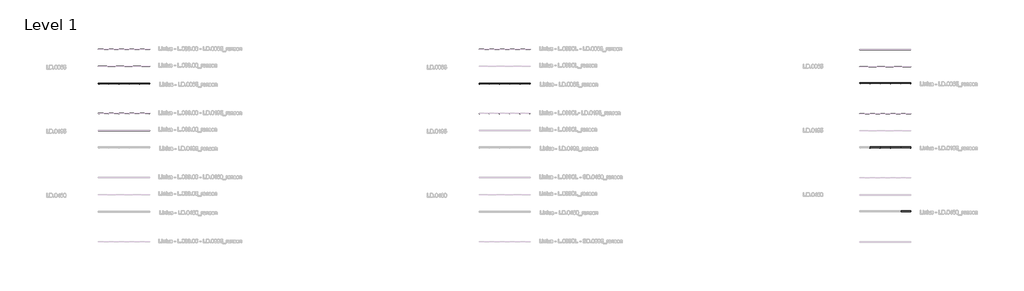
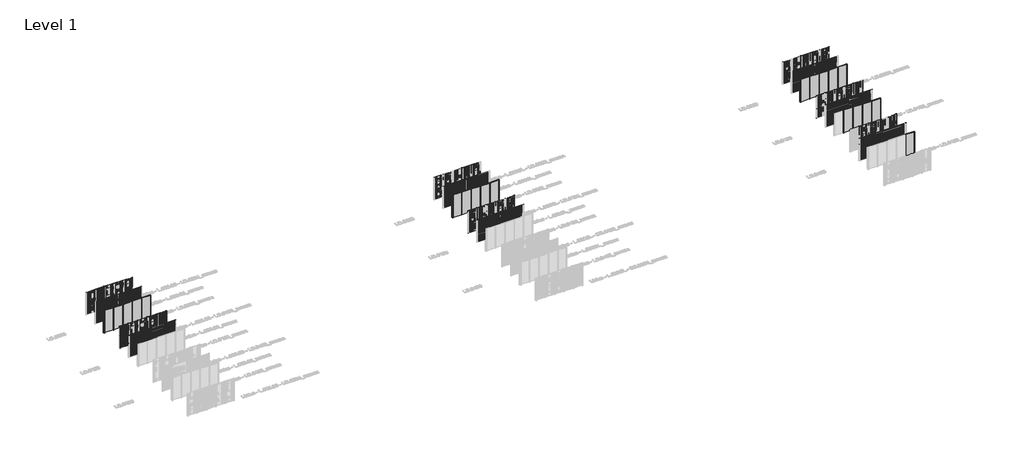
# One storey, part 9 of 507: 65 members, 61 plates.
"""IFC4 building model written with IfcOpenShell, lengths in millimetres."""

from ifc_helpers import new_model, si_unit, origin, origin_with_axes, place, context, project, spatial, polyline, outline, extrude, transform, mapped, element, save
from components import rectangular_mullion_42be434b, rectangular_mullion_e1f482b2, rectangular_mullion_21e3ddae, rectangular_mullion_ffdfeaf4, rectangular_mullion_e0a14876, rectangular_mullion_146f339b, rectangular_mullion_aa1047c5, rectangular_mullion_35b0a916, empty_system_panel_empty_aabbdda4

model = new_model("IFC4")

# Units and contexts
model_context = context("Model", 3, world=origin())
ifc_project = project(units=[si_unit("LENGTHUNIT", "METRE", prefix="MILLI")], contexts=[model_context])

# Site, building, storey
site = spatial("IfcSite", under=ifc_project)
building = spatial("IfcBuilding", under=site)
storey = spatial("IfcBuildingStorey", under=building, Name="Level 1", Elevation=0.0)

# Members
placement = place(None, origin())
rectangular_mullion_shape = rectangular_mullion_42be434b(model_context)
element("IfcMember", 1, ObjectType="Rectangular Mullion : LD.0065_renson", at=placement, inside=storey, context=model_context, shape_type="MappedRepresentation", body=[
    mapped(rectangular_mullion_shape, transform((136366.6208097, 69931.0540136, 0.0), x_axis=(-1.0, 0.0, 0.0), y_axis=(0.0, 1.0, 0.0), z_axis=(0.0, 0.0, -1.0))),
])
element("IfcMember", 2, ObjectType="Rectangular Mullion : LD.0065_renson", at=placement, inside=storey, context=model_context, shape_type="MappedRepresentation", body=[
    mapped(rectangular_mullion_shape, transform((135166.6208099, 69931.0540136, 0.0), x_axis=(-1.0, 0.0, 0.0), y_axis=(0.0, 1.0, 0.0), z_axis=(0.0, 0.0, -1.0))),
])
element("IfcMember", 3, ObjectType="Rectangular Mullion : LD.0065_renson", at=placement, inside=storey, context=model_context, shape_type="MappedRepresentation", body=[
    mapped(rectangular_mullion_shape, transform((137566.6208096, 69931.0540136, 0.0), x_axis=(-1.0, 0.0, 0.0), y_axis=(0.0, 1.0, 0.0), z_axis=(0.0, 0.0, -1.0))),
])
element("IfcMember", 4, ObjectType="Rectangular Mullion : LD.0065_renson", at=placement, inside=storey, context=model_context, shape_type="MappedRepresentation", body=[
    mapped(rectangular_mullion_shape, transform((138766.6208095, 69931.0540136, 0.0), x_axis=(-1.0, 0.0, 0.0), y_axis=(0.0, 1.0, 0.0), z_axis=(0.0, 0.0, -1.0))),
])
element("IfcMember", 5, ObjectType="Rectangular Mullion : LD.0065_renson", at=placement, inside=storey, context=model_context, shape_type="MappedRepresentation", body=[
    mapped(rectangular_mullion_shape, transform((138766.6208095, 74024.0540136, 0.0), x_axis=(-1.0, 0.0, 0.0), y_axis=(0.0, 1.0, 0.0), z_axis=(0.0, 0.0, -1.0))),
])
element("IfcMember", 6, ObjectType="Rectangular Mullion : LD.0065_renson", at=placement, inside=storey, context=model_context, shape_type="MappedRepresentation", body=[
    mapped(rectangular_mullion_shape, transform((137566.6208096, 74024.0540136, 0.0), x_axis=(-1.0, 0.0, 0.0), y_axis=(0.0, 1.0, 0.0), z_axis=(0.0, 0.0, -1.0))),
])
element("IfcMember", 7, ObjectType="Rectangular Mullion : LD.0065_renson", at=placement, inside=storey, context=model_context, shape_type="MappedRepresentation", body=[
    mapped(rectangular_mullion_shape, transform((136366.6208097, 74024.0540136, 0.0), x_axis=(-1.0, 0.0, 0.0), y_axis=(0.0, 1.0, 0.0), z_axis=(0.0, 0.0, -1.0))),
])
element("IfcMember", 8, ObjectType="Rectangular Mullion : LD.0065_renson", at=placement, inside=storey, context=model_context, shape_type="MappedRepresentation", body=[
    mapped(rectangular_mullion_shape, transform((135166.6208099, 74024.0540136, 0.0), x_axis=(-1.0, 0.0, 0.0), y_axis=(0.0, 1.0, 0.0), z_axis=(0.0, 0.0, -1.0))),
])
element("IfcMember", 9, ObjectType="Rectangular Mullion : LD.0065_renson", at=placement, inside=storey, context=model_context, shape_type="MappedRepresentation", body=[
    mapped(rectangular_mullion_shape, transform((183266.6208097, 74025.0540136, 0.0), x_axis=(-1.0, 0.0, 0.0), y_axis=(0.0, 1.0, 0.0), z_axis=(0.0, 0.0, -1.0))),
])
element("IfcMember", 10, ObjectType="Rectangular Mullion : LD.0065_renson", at=placement, inside=storey, context=model_context, shape_type="MappedRepresentation", body=[
    mapped(rectangular_mullion_shape, transform((182066.6208097, 74025.0540136, 0.0), x_axis=(-1.0, 0.0, 0.0), y_axis=(0.0, 1.0, 0.0), z_axis=(0.0, 0.0, -1.0))),
])
element("IfcMember", 11, ObjectType="Rectangular Mullion : LD.0065_renson", at=placement, inside=storey, context=model_context, shape_type="MappedRepresentation", body=[
    mapped(rectangular_mullion_shape, transform((180866.6208097, 74025.0540136, 0.0), x_axis=(-1.0, 0.0, 0.0), y_axis=(0.0, 1.0, 0.0), z_axis=(0.0, 0.0, -1.0))),
])
element("IfcMember", 12, ObjectType="Rectangular Mullion : LD.0065_renson", at=placement, inside=storey, context=model_context, shape_type="MappedRepresentation", body=[
    mapped(rectangular_mullion_shape, transform((179666.6208097, 74025.0540136, 0.0), x_axis=(-1.0, 0.0, 0.0), y_axis=(0.0, 1.0, 0.0), z_axis=(0.0, 0.0, -1.0))),
])
element("IfcMember", 13, ObjectType="Rectangular Mullion : LD.0065_renson", at=placement, inside=storey, context=model_context, shape_type="MappedRepresentation", body=[
    mapped(rectangular_mullion_shape, transform((180866.6208097, 69931.0540136, 0.0), x_axis=(-1.0, 0.0, 0.0), y_axis=(0.0, 1.0, 0.0), z_axis=(0.0, 0.0, -1.0))),
])
element("IfcMember", 14, ObjectType="Rectangular Mullion : LD.0065_renson", at=placement, inside=storey, context=model_context, shape_type="MappedRepresentation", body=[
    mapped(rectangular_mullion_shape, transform((179666.6208099, 69931.0540136, 0.0), x_axis=(-1.0, 0.0, 0.0), y_axis=(0.0, 1.0, 0.0), z_axis=(0.0, 0.0, -1.0))),
])
element("IfcMember", 15, ObjectType="Rectangular Mullion : LD.0065_renson", at=placement, inside=storey, context=model_context, shape_type="MappedRepresentation", body=[
    mapped(rectangular_mullion_shape, transform((182066.6208096, 69931.0540136, 0.0), x_axis=(-1.0, 0.0, 0.0), y_axis=(0.0, 1.0, 0.0), z_axis=(0.0, 0.0, -1.0))),
])
element("IfcMember", 16, ObjectType="Rectangular Mullion : LD.0065_renson", at=placement, inside=storey, context=model_context, shape_type="MappedRepresentation", body=[
    mapped(rectangular_mullion_shape, transform((183266.6208095, 69931.0540136, 0.0), x_axis=(-1.0, 0.0, 0.0), y_axis=(0.0, 1.0, 0.0), z_axis=(0.0, 0.0, -1.0))),
])
element("IfcMember", 17, ObjectType="Rectangular Mullion : LD.0065_renson", at=placement, inside=storey, context=model_context, shape_type="MappedRepresentation", body=[
    mapped(rectangular_mullion_shape, transform((227766.6208097, 73983.0540136, 0.0), x_axis=(-1.0, 0.0, 0.0), y_axis=(0.0, 1.0, 0.0), z_axis=(0.0, 0.0, -1.0))),
])
element("IfcMember", 18, ObjectType="Rectangular Mullion : LD.0065_renson", at=placement, inside=storey, context=model_context, shape_type="MappedRepresentation", body=[
    mapped(rectangular_mullion_shape, transform((226566.6208097, 73983.0540136, 0.0), x_axis=(-1.0, 0.0, 0.0), y_axis=(0.0, 1.0, 0.0), z_axis=(0.0, 0.0, -1.0))),
])
element("IfcMember", 19, ObjectType="Rectangular Mullion : LD.0065_renson", at=placement, inside=storey, context=model_context, shape_type="MappedRepresentation", body=[
    mapped(rectangular_mullion_shape, transform((225366.6208097, 73983.0540136, 0.0), x_axis=(-1.0, 0.0, 0.0), y_axis=(0.0, 1.0, 0.0), z_axis=(0.0, 0.0, -1.0))),
])
element("IfcMember", 20, ObjectType="Rectangular Mullion : LD.0065_renson", at=placement, inside=storey, context=model_context, shape_type="MappedRepresentation", body=[
    mapped(rectangular_mullion_shape, transform((224166.6208097, 73983.0540136, 0.0), x_axis=(-1.0, 0.0, 0.0), y_axis=(0.0, 1.0, 0.0), z_axis=(0.0, 0.0, -1.0))),
])
element("IfcMember", 21, ObjectType="Rectangular Mullion : LD.0065_renson", at=placement, inside=storey, context=model_context, shape_type="MappedRepresentation", body=[
    mapped(rectangular_mullion_shape, transform((227766.6208095, 69983.0540136, 0.0), x_axis=(-1.0, 0.0, 0.0), y_axis=(0.0, 1.0, 0.0), z_axis=(0.0, 0.0, -1.0))),
])
element("IfcMember", 22, ObjectType="Rectangular Mullion : LD.0065_renson", at=placement, inside=storey, context=model_context, shape_type="MappedRepresentation", body=[
    mapped(rectangular_mullion_shape, transform((226566.6208096, 69983.0540136, 0.0), x_axis=(-1.0, 0.0, 0.0), y_axis=(0.0, 1.0, 0.0), z_axis=(0.0, 0.0, -1.0))),
])
element("IfcMember", 23, ObjectType="Rectangular Mullion : LD.0065_renson", at=placement, inside=storey, context=model_context, shape_type="MappedRepresentation", body=[
    mapped(rectangular_mullion_shape, transform((225366.6208097, 69983.0540136, 0.0), x_axis=(-1.0, 0.0, 0.0), y_axis=(0.0, 1.0, 0.0), z_axis=(0.0, 0.0, -1.0))),
])
element("IfcMember", 24, ObjectType="Rectangular Mullion : LD.0065_renson", at=placement, inside=storey, context=model_context, shape_type="MappedRepresentation", body=[
    mapped(rectangular_mullion_shape, transform((224166.6208099, 69983.0540136, 0.0), x_axis=(-1.0, 0.0, 0.0), y_axis=(0.0, 1.0, 0.0), z_axis=(0.0, 0.0, -1.0))),
])
rectangular_mullion_2_shape = rectangular_mullion_e1f482b2(model_context)
element("IfcMember", 25, ObjectType="Rectangular Mullion : LD.0195_renson", at=placement, inside=storey, context=model_context, shape_type="MappedRepresentation", body=[
    mapped(rectangular_mullion_2_shape, transform((138766.6208095, 66524.0540136, 0.0), x_axis=(-1.0, 0.0, 0.0), y_axis=(0.0, 1.0, 0.0), z_axis=(0.0, 0.0, -1.0))),
])
element("IfcMember", 26, ObjectType="Rectangular Mullion : LD.0195_renson", at=placement, inside=storey, context=model_context, shape_type="MappedRepresentation", body=[
    mapped(rectangular_mullion_2_shape, transform((137566.6208096, 66524.0540136, 0.0), x_axis=(-1.0, 0.0, 0.0), y_axis=(0.0, 1.0, 0.0), z_axis=(0.0, 0.0, -1.0))),
])
element("IfcMember", 27, ObjectType="Rectangular Mullion : LD.0195_renson", at=placement, inside=storey, context=model_context, shape_type="MappedRepresentation", body=[
    mapped(rectangular_mullion_2_shape, transform((136366.6208097, 66524.0540136, 0.0), x_axis=(-1.0, 0.0, 0.0), y_axis=(0.0, 1.0, 0.0), z_axis=(0.0, 0.0, -1.0))),
])
element("IfcMember", 28, ObjectType="Rectangular Mullion : LD.0195_renson", at=placement, inside=storey, context=model_context, shape_type="MappedRepresentation", body=[
    mapped(rectangular_mullion_2_shape, transform((135166.6208099, 66524.0540136, 0.0), x_axis=(-1.0, 0.0, 0.0), y_axis=(0.0, 1.0, 0.0), z_axis=(0.0, 0.0, -1.0))),
])
element("IfcMember", 29, ObjectType="Rectangular Mullion : LD.0195_renson", at=placement, inside=storey, context=model_context, shape_type="MappedRepresentation", body=[
    mapped(rectangular_mullion_2_shape, transform((183266.6208097, 66525.0540136, 0.0), x_axis=(-1.0, 0.0, 0.0), y_axis=(0.0, 1.0, 0.0), z_axis=(0.0, 0.0, -1.0))),
])
element("IfcMember", 30, ObjectType="Rectangular Mullion : LD.0195_renson", at=placement, inside=storey, context=model_context, shape_type="MappedRepresentation", body=[
    mapped(rectangular_mullion_2_shape, transform((182066.6208097, 66525.0540136, 0.0), x_axis=(-1.0, 0.0, 0.0), y_axis=(0.0, 1.0, 0.0), z_axis=(0.0, 0.0, -1.0))),
])
element("IfcMember", 31, ObjectType="Rectangular Mullion : LD.0195_renson", at=placement, inside=storey, context=model_context, shape_type="MappedRepresentation", body=[
    mapped(rectangular_mullion_2_shape, transform((180866.6208097, 66525.0540136, 0.0), x_axis=(-1.0, 0.0, 0.0), y_axis=(0.0, 1.0, 0.0), z_axis=(0.0, 0.0, -1.0))),
])
element("IfcMember", 32, ObjectType="Rectangular Mullion : LD.0195_renson", at=placement, inside=storey, context=model_context, shape_type="MappedRepresentation", body=[
    mapped(rectangular_mullion_2_shape, transform((179666.6208097, 66525.0540136, 0.0), x_axis=(-1.0, 0.0, 0.0), y_axis=(0.0, 1.0, 0.0), z_axis=(0.0, 0.0, -1.0))),
])
element("IfcMember", 33, ObjectType="Rectangular Mullion : LD.0195_renson", at=placement, inside=storey, context=model_context, shape_type="MappedRepresentation", body=[
    mapped(rectangular_mullion_2_shape, transform((227766.6208097, 66483.0540136, 0.0), x_axis=(-1.0, 0.0, 0.0), y_axis=(0.0, 1.0, 0.0), z_axis=(0.0, 0.0, -1.0))),
])
element("IfcMember", 34, ObjectType="Rectangular Mullion : LD.0195_renson", at=placement, inside=storey, context=model_context, shape_type="MappedRepresentation", body=[
    mapped(rectangular_mullion_2_shape, transform((226566.6208097, 66483.0540136, 0.0), x_axis=(-1.0, 0.0, 0.0), y_axis=(0.0, 1.0, 0.0), z_axis=(0.0, 0.0, -1.0))),
])
element("IfcMember", 35, ObjectType="Rectangular Mullion : LD.0195_renson", at=placement, inside=storey, context=model_context, shape_type="MappedRepresentation", body=[
    mapped(rectangular_mullion_2_shape, transform((225366.6208097, 66483.0540136, 0.0), x_axis=(-1.0, 0.0, 0.0), y_axis=(0.0, 1.0, 0.0), z_axis=(0.0, 0.0, -1.0))),
])
element("IfcMember", 36, ObjectType="Rectangular Mullion : LD.0195_renson", at=placement, inside=storey, context=model_context, shape_type="MappedRepresentation", body=[
    mapped(rectangular_mullion_2_shape, transform((224166.6208097, 66483.0540136, 0.0), x_axis=(-1.0, 0.0, 0.0), y_axis=(0.0, 1.0, 0.0), z_axis=(0.0, 0.0, -1.0))),
])
element("IfcMember", 37, ObjectType="Rectangular Mullion : LD.0195_renson", at=placement, inside=storey, context=model_context, shape_type="MappedRepresentation", body=[
    mapped(rectangular_mullion_2_shape, transform((227766.6208095, 62483.0540136, 0.0), x_axis=(-1.0, 0.0, 0.0), y_axis=(0.0, 1.0, 0.0), z_axis=(0.0, 0.0, -1.0))),
])
element("IfcMember", 38, ObjectType="Rectangular Mullion : LD.0195_renson", at=placement, inside=storey, context=model_context, shape_type="MappedRepresentation", body=[
    mapped(rectangular_mullion_2_shape, transform((226566.6208096, 62483.0540136, 0.0), x_axis=(-1.0, 0.0, 0.0), y_axis=(0.0, 1.0, 0.0), z_axis=(0.0, 0.0, -1.0))),
])
element("IfcMember", 39, ObjectType="Rectangular Mullion : LD.0195_renson", at=placement, inside=storey, context=model_context, shape_type="MappedRepresentation", body=[
    mapped(rectangular_mullion_2_shape, transform((225366.6208097, 62483.0540136, 0.0), x_axis=(-1.0, 0.0, 0.0), y_axis=(0.0, 1.0, 0.0), z_axis=(0.0, 0.0, -1.0))),
])
element("IfcMember", 40, ObjectType="Rectangular Mullion : LD.0195_renson", at=placement, inside=storey, context=model_context, shape_type="MappedRepresentation", body=[
    mapped(rectangular_mullion_2_shape, transform((224166.6208099, 62483.0540136, 0.0), x_axis=(-1.0, 0.0, 0.0), y_axis=(0.0, 1.0, 0.0), z_axis=(0.0, 0.0, -1.0))),
])
rectangular_mullion_3_shape = rectangular_mullion_21e3ddae(model_context)
element("IfcMember", 41, ObjectType="Rectangular Mullion : LD.0460_renson", at=placement, inside=storey, context=model_context, shape_type="MappedRepresentation", body=[
    mapped(rectangular_mullion_3_shape, transform((227766.6208097, 58983.0540136, 0.0), x_axis=(-1.0, 0.0, 0.0), y_axis=(0.0, 1.0, 0.0), z_axis=(0.0, 0.0, -1.0))),
])
element("IfcMember", 42, ObjectType="Rectangular Mullion : LD.0460_renson", at=placement, inside=storey, context=model_context, shape_type="MappedRepresentation", body=[
    mapped(rectangular_mullion_3_shape, transform((226566.6208097, 58983.0540136, 0.0), x_axis=(-1.0, 0.0, 0.0), y_axis=(0.0, 1.0, 0.0), z_axis=(0.0, 0.0, -1.0))),
])
element("IfcMember", 43, ObjectType="Rectangular Mullion : LD.0460_renson", at=placement, inside=storey, context=model_context, shape_type="MappedRepresentation", body=[
    mapped(rectangular_mullion_3_shape, transform((225366.6208097, 58983.0540136, 0.0), x_axis=(-1.0, 0.0, 0.0), y_axis=(0.0, 1.0, 0.0), z_axis=(0.0, 0.0, -1.0))),
])
element("IfcMember", 44, ObjectType="Rectangular Mullion : LD.0460_renson", at=placement, inside=storey, context=model_context, shape_type="MappedRepresentation", body=[
    mapped(rectangular_mullion_3_shape, transform((224166.6208097, 58983.0540136, 0.0), x_axis=(-1.0, 0.0, 0.0), y_axis=(0.0, 1.0, 0.0), z_axis=(0.0, 0.0, -1.0))),
])
rectangular_mullion_4_shape = rectangular_mullion_ffdfeaf4(model_context)
element("IfcMember", 45, ObjectType="Rectangular Mullion : LD.0065 - left_renson", at=placement, inside=storey, context=model_context, shape_type="MappedRepresentation", body=[
    mapped(rectangular_mullion_4_shape, transform((133966.6208097, 69931.0540136, 0.0), x_axis=(-1.0, 0.0, 0.0), y_axis=(0.0, 1.0, 0.0), z_axis=(0.0, 0.0, -1.0))),
])
element("IfcMember", 46, ObjectType="Rectangular Mullion : LD.0065 - left_renson", at=placement, inside=storey, context=model_context, shape_type="MappedRepresentation", body=[
    mapped(rectangular_mullion_4_shape, transform((133966.6208097, 74024.0540136, 0.0), x_axis=(-1.0, 0.0, 0.0), y_axis=(0.0, 1.0, 0.0), z_axis=(0.0, 0.0, -1.0))),
])
element("IfcMember", 47, ObjectType="Rectangular Mullion : LD.0065 - left_renson", at=placement, inside=storey, context=model_context, shape_type="MappedRepresentation", body=[
    mapped(rectangular_mullion_4_shape, transform((178466.6208097, 74025.0540136, 0.0), x_axis=(-1.0, 0.0, 0.0), y_axis=(0.0, 1.0, 0.0), z_axis=(0.0, 0.0, -1.0))),
])
element("IfcMember", 48, ObjectType="Rectangular Mullion : LD.0065 - left_renson", at=placement, inside=storey, context=model_context, shape_type="MappedRepresentation", body=[
    mapped(rectangular_mullion_4_shape, transform((178466.6208097, 69931.0540136, 0.0), x_axis=(-1.0, 0.0, 0.0), y_axis=(0.0, 1.0, 0.0), z_axis=(0.0, 0.0, -1.0))),
])
element("IfcMember", 49, ObjectType="Rectangular Mullion : LD.0065 - left_renson", at=placement, inside=storey, context=model_context, shape_type="MappedRepresentation", body=[
    mapped(rectangular_mullion_4_shape, transform((222966.6208097, 73983.0540136, 0.0), x_axis=(-1.0, 0.0, 0.0), y_axis=(0.0, 1.0, 0.0), z_axis=(0.0, 0.0, -1.0))),
])
element("IfcMember", 50, ObjectType="Rectangular Mullion : LD.0065 - left_renson", at=placement, inside=storey, context=model_context, shape_type="MappedRepresentation", body=[
    mapped(rectangular_mullion_4_shape, transform((222966.6208097, 69983.0540136, 0.0), x_axis=(-1.0, 0.0, 0.0), y_axis=(0.0, 1.0, 0.0), z_axis=(0.0, 0.0, -1.0))),
])
rectangular_mullion_5_shape = rectangular_mullion_e0a14876(model_context)
element("IfcMember", 51, ObjectType="Rectangular Mullion : LD.0065 - right_renson", at=placement, inside=storey, context=model_context, shape_type="MappedRepresentation", body=[
    mapped(rectangular_mullion_5_shape, transform((139966.6208097, 69931.0540136, 3000.0), x_axis=(1.0, 0.0, 0.0), y_axis=(0.0, 1.0, 0.0), z_axis=(0.0, 0.0, 1.0))),
])
element("IfcMember", 52, ObjectType="Rectangular Mullion : LD.0065 - right_renson", at=placement, inside=storey, context=model_context, shape_type="MappedRepresentation", body=[
    mapped(rectangular_mullion_5_shape, transform((139966.6208097, 74024.0540136, 3000.0), x_axis=(1.0, 0.0, 0.0), y_axis=(0.0, 1.0, 0.0), z_axis=(0.0, 0.0, 1.0))),
])
element("IfcMember", 53, ObjectType="Rectangular Mullion : LD.0065 - right_renson", at=placement, inside=storey, context=model_context, shape_type="MappedRepresentation", body=[
    mapped(rectangular_mullion_5_shape, transform((184466.6208097, 74025.0540136, 3000.0), x_axis=(1.0, 0.0, 0.0), y_axis=(0.0, 1.0, 0.0), z_axis=(0.0, 0.0, 1.0))),
])
element("IfcMember", 54, ObjectType="Rectangular Mullion : LD.0065 - right_renson", at=placement, inside=storey, context=model_context, shape_type="MappedRepresentation", body=[
    mapped(rectangular_mullion_5_shape, transform((184466.6208097, 69931.0540136, 3000.0), x_axis=(1.0, 0.0, 0.0), y_axis=(0.0, 1.0, 0.0), z_axis=(0.0, 0.0, 1.0))),
])
element("IfcMember", 55, ObjectType="Rectangular Mullion : LD.0065 - right_renson", at=placement, inside=storey, context=model_context, shape_type="MappedRepresentation", body=[
    mapped(rectangular_mullion_5_shape, transform((228966.6208097, 73983.0540136, 3000.0), x_axis=(1.0, 0.0, 0.0), y_axis=(0.0, 1.0, 0.0), z_axis=(0.0, 0.0, 1.0))),
])
element("IfcMember", 56, ObjectType="Rectangular Mullion : LD.0065 - right_renson", at=placement, inside=storey, context=model_context, shape_type="MappedRepresentation", body=[
    mapped(rectangular_mullion_5_shape, transform((228966.6208097, 69983.0540136, 3000.0), x_axis=(1.0, 0.0, 0.0), y_axis=(0.0, 1.0, 0.0), z_axis=(0.0, 0.0, 1.0))),
])
rectangular_mullion_6_shape = rectangular_mullion_146f339b(model_context)
element("IfcMember", 57, ObjectType="Rectangular Mullion : LD.0195 - left_renson", at=placement, inside=storey, context=model_context, shape_type="MappedRepresentation", body=[
    mapped(rectangular_mullion_6_shape, transform((133966.6208097, 66524.0540136, 0.0), x_axis=(-1.0, 0.0, 0.0), y_axis=(0.0, 1.0, 0.0), z_axis=(0.0, 0.0, -1.0))),
])
element("IfcMember", 58, ObjectType="Rectangular Mullion : LD.0195 - left_renson", at=placement, inside=storey, context=model_context, shape_type="MappedRepresentation", body=[
    mapped(rectangular_mullion_6_shape, transform((178466.6208097, 66525.0540136, 0.0), x_axis=(-1.0, 0.0, 0.0), y_axis=(0.0, 1.0, 0.0), z_axis=(0.0, 0.0, -1.0))),
])
element("IfcMember", 59, ObjectType="Rectangular Mullion : LD.0195 - left_renson", at=placement, inside=storey, context=model_context, shape_type="MappedRepresentation", body=[
    mapped(rectangular_mullion_6_shape, transform((222966.6208097, 66483.0540136, 0.0), x_axis=(-1.0, 0.0, 0.0), y_axis=(0.0, 1.0, 0.0), z_axis=(0.0, 0.0, -1.0))),
])
rectangular_mullion_7_shape = rectangular_mullion_aa1047c5(model_context)
element("IfcMember", 60, ObjectType="Rectangular Mullion : LD.0195 - right_renson", at=placement, inside=storey, context=model_context, shape_type="MappedRepresentation", body=[
    mapped(rectangular_mullion_7_shape, transform((139966.6208097, 66524.0540136, 3000.0), x_axis=(1.0, 0.0, 0.0), y_axis=(0.0, 1.0, 0.0), z_axis=(0.0, 0.0, 1.0))),
])
element("IfcMember", 61, ObjectType="Rectangular Mullion : LD.0195 - right_renson", at=placement, inside=storey, context=model_context, shape_type="MappedRepresentation", body=[
    mapped(rectangular_mullion_7_shape, transform((184466.6208097, 66525.0540136, 3000.0), x_axis=(1.0, 0.0, 0.0), y_axis=(0.0, 1.0, 0.0), z_axis=(0.0, 0.0, 1.0))),
])
element("IfcMember", 62, ObjectType="Rectangular Mullion : LD.0195 - right_renson", at=placement, inside=storey, context=model_context, shape_type="MappedRepresentation", body=[
    mapped(rectangular_mullion_7_shape, transform((228966.6208097, 66483.0540136, 3000.0), x_axis=(1.0, 0.0, 0.0), y_axis=(0.0, 1.0, 0.0), z_axis=(0.0, 0.0, 1.0))),
])
element("IfcMember", 63, ObjectType="Rectangular Mullion : LD.0195 - right_renson", at=placement, inside=storey, context=model_context, shape_type="MappedRepresentation", body=[
    mapped(rectangular_mullion_7_shape, transform((228966.6208097, 62483.0540136, 3000.0), x_axis=(1.0, 0.0, 0.0), y_axis=(0.0, 1.0, 0.0), z_axis=(0.0, 0.0, 1.0))),
])
rectangular_mullion_8_shape = rectangular_mullion_35b0a916(model_context)
element("IfcMember", 64, ObjectType="Rectangular Mullion : LD.0460 - right_renson", at=placement, inside=storey, context=model_context, shape_type="MappedRepresentation", body=[
    mapped(rectangular_mullion_8_shape, transform((228966.6208097, 58983.0540136, 3000.0), x_axis=(1.0, 0.0, 0.0), y_axis=(0.0, 1.0, 0.0), z_axis=(0.0, 0.0, 1.0))),
])
element("IfcMember", 65, ObjectType="Rectangular Mullion : LD.0460 - right_renson", at=placement, inside=storey, context=model_context, shape_type="MappedRepresentation", body=[
    mapped(rectangular_mullion_8_shape, transform((228966.6208097, 54983.0540136, 3000.0), x_axis=(1.0, 0.0, 0.0), y_axis=(0.0, 1.0, 0.0), z_axis=(0.0, 0.0, 1.0))),
])

# Plates
element("IfcPlate", 66, ObjectType="Linius - L.033.08_renson", at=placement, inside=storey, context=model_context, shape_type="SweptSolid", body=[
    extrude(outline(polyline([(133966.6208097, 74025.0540136), (135166.6208099, 74025.0540136), (135166.6208099, 74023.0540136), (133966.6208097, 74023.0540136), (133966.6208097, 74025.0540136)])), origin_with_axes(), (0.0, 0.0, 1.0), 3000.0),
])
element("IfcPlate", 67, ObjectType="Linius - L.033.08_renson", at=placement, inside=storey, context=model_context, shape_type="SweptSolid", body=[
    extrude(outline(polyline([(135166.6208099, 74025.0540136), (136366.6208097, 74025.0540136), (136366.6208097, 74023.0540136), (135166.6208099, 74023.0540136), (135166.6208099, 74025.0540136)])), origin_with_axes(), (0.0, 0.0, 1.0), 3000.0),
])
element("IfcPlate", 68, ObjectType="Linius - L.033.08_renson", at=placement, inside=storey, context=model_context, shape_type="SweptSolid", body=[
    extrude(outline(polyline([(136366.6208097, 74025.0540136), (137566.6208096, 74025.0540136), (137566.6208096, 74023.0540136), (136366.6208097, 74023.0540136), (136366.6208097, 74025.0540136)])), origin_with_axes(), (0.0, 0.0, 1.0), 3000.0),
])
element("IfcPlate", 69, ObjectType="Linius - L.033.08_renson", at=placement, inside=storey, context=model_context, shape_type="SweptSolid", body=[
    extrude(outline(polyline([(137566.6208096, 74025.0540136), (138766.6208095, 74025.0540136), (138766.6208095, 74023.0540136), (137566.6208096, 74023.0540136), (137566.6208096, 74025.0540136)])), origin_with_axes(), (0.0, 0.0, 1.0), 3000.0),
])
element("IfcPlate", 70, ObjectType="Linius - L.033.08_renson", at=placement, inside=storey, context=model_context, shape_type="SweptSolid", body=[
    extrude(outline(polyline([(133966.6208097, 72025.0540136), (139966.6208097, 72025.0540136), (139966.6208097, 72023.0540136), (133966.6208097, 72023.0540136), (133966.6208097, 72025.0540136)])), origin_with_axes(), (0.0, 0.0, 1.0), 3000.0),
])
element("IfcPlate", 71, ObjectType="Linius - L.033.08_renson", at=placement, inside=storey, context=model_context, shape_type="SweptSolid", body=[
    extrude(outline(polyline([(133966.6208097, 66525.0540136), (135166.6208099, 66525.0540136), (135166.6208099, 66523.0540136), (133966.6208097, 66523.0540136), (133966.6208097, 66525.0540136)])), origin_with_axes(), (0.0, 0.0, 1.0), 3000.0),
])
element("IfcPlate", 72, ObjectType="Linius - L.033.08_renson", at=placement, inside=storey, context=model_context, shape_type="SweptSolid", body=[
    extrude(outline(polyline([(135166.6208099, 66525.0540136), (136366.6208097, 66525.0540136), (136366.6208097, 66523.0540136), (135166.6208099, 66523.0540136), (135166.6208099, 66525.0540136)])), origin_with_axes(), (0.0, 0.0, 1.0), 3000.0),
])
element("IfcPlate", 73, ObjectType="Linius - L.033.08_renson", at=placement, inside=storey, context=model_context, shape_type="SweptSolid", body=[
    extrude(outline(polyline([(136366.6208097, 66525.0540136), (137566.6208096, 66525.0540136), (137566.6208096, 66523.0540136), (136366.6208097, 66523.0540136), (136366.6208097, 66525.0540136)])), origin_with_axes(), (0.0, 0.0, 1.0), 3000.0),
])
element("IfcPlate", 74, ObjectType="Linius - L.033.08_renson", at=placement, inside=storey, context=model_context, shape_type="SweptSolid", body=[
    extrude(outline(polyline([(137566.6208096, 66525.0540136), (138766.6208095, 66525.0540136), (138766.6208095, 66523.0540136), (137566.6208096, 66523.0540136), (137566.6208096, 66525.0540136)])), origin_with_axes(), (0.0, 0.0, 1.0), 3000.0),
])
element("IfcPlate", 75, ObjectType="Linius - L.033.08_renson", at=placement, inside=storey, context=model_context, shape_type="SweptSolid", body=[
    extrude(outline(polyline([(133966.6208097, 64525.0540136), (139966.6208097, 64525.0540136), (139966.6208097, 64523.0540136), (133966.6208097, 64523.0540136), (133966.6208097, 64525.0540136)])), origin_with_axes(), (0.0, 0.0, 1.0), 3000.0),
])
element("IfcPlate", 76, ObjectType="Linius - L.033.08_renson", at=placement, inside=storey, context=model_context, shape_type="SweptSolid", body=[
    extrude(outline(polyline([(138766.6208095, 74025.0540136), (139966.6208097, 74025.0540136), (139966.6208097, 74023.0540136), (138766.6208095, 74023.0540136), (138766.6208095, 74025.0540136)])), origin_with_axes(), (0.0, 0.0, 1.0), 3000.0),
])
element("IfcPlate", 77, ObjectType="Linius - L.033.08_renson", at=placement, inside=storey, context=model_context, shape_type="SweptSolid", body=[
    extrude(outline(polyline([(138766.6208095, 66525.0540136), (139966.6208097, 66525.0540136), (139966.6208097, 66523.0540136), (138766.6208095, 66523.0540136), (138766.6208095, 66525.0540136)])), origin_with_axes(), (0.0, 0.0, 1.0), 3000.0),
])
element("IfcPlate", 78, ObjectType="Linius - L.033CL_renson", at=placement, inside=storey, context=model_context, shape_type="SweptSolid", body=[
    extrude(outline(polyline([(178466.6208097, 74026.0540136), (179666.6208097, 74026.0540136), (179666.6208097, 74024.0540136), (178466.6208097, 74024.0540136), (178466.6208097, 74026.0540136)])), origin_with_axes(), (0.0, 0.0, 1.0), 3000.0),
])
element("IfcPlate", 79, ObjectType="Linius - L.033CL_renson", at=placement, inside=storey, context=model_context, shape_type="SweptSolid", body=[
    extrude(outline(polyline([(179666.6208097, 74026.0540136), (180866.6208097, 74026.0540136), (180866.6208097, 74024.0540136), (179666.6208097, 74024.0540136), (179666.6208097, 74026.0540136)])), origin_with_axes(), (0.0, 0.0, 1.0), 3000.0),
])
element("IfcPlate", 80, ObjectType="Linius - L.033CL_renson", at=placement, inside=storey, context=model_context, shape_type="SweptSolid", body=[
    extrude(outline(polyline([(180866.6208097, 74026.0540136), (182066.6208097, 74026.0540136), (182066.6208097, 74024.0540136), (180866.6208097, 74024.0540136), (180866.6208097, 74026.0540136)])), origin_with_axes(), (0.0, 0.0, 1.0), 3000.0),
])
element("IfcPlate", 81, ObjectType="Linius - L.033CL_renson", at=placement, inside=storey, context=model_context, shape_type="SweptSolid", body=[
    extrude(outline(polyline([(182066.6208097, 74026.0540136), (183266.6208097, 74026.0540136), (183266.6208097, 74024.0540136), (182066.6208097, 74024.0540136), (182066.6208097, 74026.0540136)])), origin_with_axes(), (0.0, 0.0, 1.0), 3000.0),
])
element("IfcPlate", 82, ObjectType="Linius - L.033CL_renson", at=placement, inside=storey, context=model_context, shape_type="SweptSolid", body=[
    extrude(outline(polyline([(183266.6208097, 74026.0540136), (184466.6208097, 74026.0540136), (184466.6208097, 74024.0540136), (183266.6208097, 74024.0540136), (183266.6208097, 74026.0540136)])), origin_with_axes(), (0.0, 0.0, 1.0), 3000.0),
])
element("IfcPlate", 83, ObjectType="Linius - L.033CL_renson", at=placement, inside=storey, context=model_context, shape_type="SweptSolid", body=[
    extrude(outline(polyline([(178466.6208097, 72026.0540136), (184466.6208097, 72026.0540136), (184466.6208097, 72024.0540136), (178466.6208097, 72024.0540136), (178466.6208097, 72026.0540136)])), origin_with_axes(), (0.0, 0.0, 1.0), 3000.0),
])
element("IfcPlate", 84, ObjectType="Linius - L.033CL_renson", at=placement, inside=storey, context=model_context, shape_type="SweptSolid", body=[
    extrude(outline(polyline([(178466.6208097, 66526.0540136), (179666.6208097, 66526.0540136), (179666.6208097, 66524.0540136), (178466.6208097, 66524.0540136), (178466.6208097, 66526.0540136)])), origin_with_axes(), (0.0, 0.0, 1.0), 3000.0),
])
element("IfcPlate", 85, ObjectType="Linius - L.033CL_renson", at=placement, inside=storey, context=model_context, shape_type="SweptSolid", body=[
    extrude(outline(polyline([(179666.6208097, 66526.0540136), (180866.6208097, 66526.0540136), (180866.6208097, 66524.0540136), (179666.6208097, 66524.0540136), (179666.6208097, 66526.0540136)])), origin_with_axes(), (0.0, 0.0, 1.0), 3000.0),
])
element("IfcPlate", 86, ObjectType="Linius - L.033CL_renson", at=placement, inside=storey, context=model_context, shape_type="SweptSolid", body=[
    extrude(outline(polyline([(180866.6208097, 66526.0540136), (182066.6208097, 66526.0540136), (182066.6208097, 66524.0540136), (180866.6208097, 66524.0540136), (180866.6208097, 66526.0540136)])), origin_with_axes(), (0.0, 0.0, 1.0), 3000.0),
])
element("IfcPlate", 87, ObjectType="Linius - L.033CL_renson", at=placement, inside=storey, context=model_context, shape_type="SweptSolid", body=[
    extrude(outline(polyline([(182066.6208097, 66526.0540136), (183266.6208097, 66526.0540136), (183266.6208097, 66524.0540136), (182066.6208097, 66524.0540136), (182066.6208097, 66526.0540136)])), origin_with_axes(), (0.0, 0.0, 1.0), 3000.0),
])
element("IfcPlate", 88, ObjectType="Linius - L.033CL_renson", at=placement, inside=storey, context=model_context, shape_type="SweptSolid", body=[
    extrude(outline(polyline([(183266.6208097, 66526.0540136), (184466.6208097, 66526.0540136), (184466.6208097, 66524.0540136), (183266.6208097, 66524.0540136), (183266.6208097, 66526.0540136)])), origin_with_axes(), (0.0, 0.0, 1.0), 3000.0),
])
element("IfcPlate", 89, ObjectType="Linius - L.033CL_renson", at=placement, inside=storey, context=model_context, shape_type="SweptSolid", body=[
    extrude(outline(polyline([(178466.6208097, 64526.0540136), (184466.6208097, 64526.0540136), (184466.6208097, 64524.0540136), (178466.6208097, 64524.0540136), (178466.6208097, 64526.0540136)])), origin_with_axes(), (0.0, 0.0, 1.0), 3000.0),
])
element("IfcPlate", 90, ObjectType="Linius - L.033IM1_renson", at=placement, inside=storey, context=model_context, shape_type="SweptSolid", body=[
    extrude(outline(polyline([(222966.6208097, 73984.0540136), (224166.6208097, 73984.0540136), (224166.6208097, 73982.0540136), (222966.6208097, 73982.0540136), (222966.6208097, 73984.0540136)])), origin_with_axes(), (0.0, 0.0, 1.0), 3000.0),
])
element("IfcPlate", 91, ObjectType="Linius - L.033IM1_renson", at=placement, inside=storey, context=model_context, shape_type="SweptSolid", body=[
    extrude(outline(polyline([(224166.6208097, 73984.0540136), (225366.6208097, 73984.0540136), (225366.6208097, 73982.0540136), (224166.6208097, 73982.0540136), (224166.6208097, 73984.0540136)])), origin_with_axes(), (0.0, 0.0, 1.0), 3000.0),
])
element("IfcPlate", 92, ObjectType="Linius - L.033IM1_renson", at=placement, inside=storey, context=model_context, shape_type="SweptSolid", body=[
    extrude(outline(polyline([(225366.6208097, 73984.0540136), (226566.6208097, 73984.0540136), (226566.6208097, 73982.0540136), (225366.6208097, 73982.0540136), (225366.6208097, 73984.0540136)])), origin_with_axes(), (0.0, 0.0, 1.0), 3000.0),
])
element("IfcPlate", 93, ObjectType="Linius - L.033IM1_renson", at=placement, inside=storey, context=model_context, shape_type="SweptSolid", body=[
    extrude(outline(polyline([(226566.6208097, 73984.0540136), (227766.6208097, 73984.0540136), (227766.6208097, 73982.0540136), (226566.6208097, 73982.0540136), (226566.6208097, 73984.0540136)])), origin_with_axes(), (0.0, 0.0, 1.0), 3000.0),
])
element("IfcPlate", 94, ObjectType="Linius - L.033IM1_renson", at=placement, inside=storey, context=model_context, shape_type="SweptSolid", body=[
    extrude(outline(polyline([(227766.6208097, 73984.0540136), (228966.6208097, 73984.0540136), (228966.6208097, 73982.0540136), (227766.6208097, 73982.0540136), (227766.6208097, 73984.0540136)])), origin_with_axes(), (0.0, 0.0, 1.0), 3000.0),
])
element("IfcPlate", 95, ObjectType="Linius - L.033IM1_renson", at=placement, inside=storey, context=model_context, shape_type="SweptSolid", body=[
    extrude(outline(polyline([(222966.6208097, 71984.0540136), (228966.6208097, 71984.0540136), (228966.6208097, 71982.0540136), (222966.6208097, 71982.0540136), (222966.6208097, 71984.0540136)])), origin_with_axes(), (0.0, 0.0, 1.0), 3000.0),
])
element("IfcPlate", 96, ObjectType="Linius - L.033IM1_renson", at=placement, inside=storey, context=model_context, shape_type="SweptSolid", body=[
    extrude(outline(polyline([(222966.6208097, 66484.0540136), (224166.6208097, 66484.0540136), (224166.6208097, 66482.0540136), (222966.6208097, 66482.0540136), (222966.6208097, 66484.0540136)])), origin_with_axes(), (0.0, 0.0, 1.0), 3000.0),
])
element("IfcPlate", 97, ObjectType="Linius - L.033IM1_renson", at=placement, inside=storey, context=model_context, shape_type="SweptSolid", body=[
    extrude(outline(polyline([(224166.6208097, 66484.0540136), (225366.6208097, 66484.0540136), (225366.6208097, 66482.0540136), (224166.6208097, 66482.0540136), (224166.6208097, 66484.0540136)])), origin_with_axes(), (0.0, 0.0, 1.0), 3000.0),
])
element("IfcPlate", 98, ObjectType="Linius - L.033IM1_renson", at=placement, inside=storey, context=model_context, shape_type="SweptSolid", body=[
    extrude(outline(polyline([(225366.6208097, 66484.0540136), (226566.6208097, 66484.0540136), (226566.6208097, 66482.0540136), (225366.6208097, 66482.0540136), (225366.6208097, 66484.0540136)])), origin_with_axes(), (0.0, 0.0, 1.0), 3000.0),
])
element("IfcPlate", 99, ObjectType="Linius - L.033IM1_renson", at=placement, inside=storey, context=model_context, shape_type="SweptSolid", body=[
    extrude(outline(polyline([(226566.6208097, 66484.0540136), (227766.6208097, 66484.0540136), (227766.6208097, 66482.0540136), (226566.6208097, 66482.0540136), (226566.6208097, 66484.0540136)])), origin_with_axes(), (0.0, 0.0, 1.0), 3000.0),
])
element("IfcPlate", 100, ObjectType="Linius - L.033IM1_renson", at=placement, inside=storey, context=model_context, shape_type="SweptSolid", body=[
    extrude(outline(polyline([(227766.6208097, 66484.0540136), (228966.6208097, 66484.0540136), (228966.6208097, 66482.0540136), (227766.6208097, 66482.0540136), (227766.6208097, 66484.0540136)])), origin_with_axes(), (0.0, 0.0, 1.0), 3000.0),
])
element("IfcPlate", 101, ObjectType="Linius - L.033IM1_renson", at=placement, inside=storey, context=model_context, shape_type="SweptSolid", body=[
    extrude(outline(polyline([(222966.6208097, 64484.0540136), (228966.6208097, 64484.0540136), (228966.6208097, 64482.0540136), (222966.6208097, 64482.0540136), (222966.6208097, 64484.0540136)])), origin_with_axes(), (0.0, 0.0, 1.0), 3000.0),
])
element("IfcPlate", 102, ObjectType="Linius - L.033IM1_renson", at=placement, inside=storey, context=model_context, shape_type="SweptSolid", body=[
    extrude(outline(polyline([(224166.6208097, 58984.0540136), (225366.6208097, 58984.0540136), (225366.6208097, 58982.0540136), (224166.6208097, 58982.0540136), (224166.6208097, 58984.0540136)])), origin_with_axes(), (0.0, 0.0, 1.0), 3000.0),
])
element("IfcPlate", 103, ObjectType="Linius - L.033IM1_renson", at=placement, inside=storey, context=model_context, shape_type="SweptSolid", body=[
    extrude(outline(polyline([(225366.6208097, 58984.0540136), (226566.6208097, 58984.0540136), (226566.6208097, 58982.0540136), (225366.6208097, 58982.0540136), (225366.6208097, 58984.0540136)])), origin_with_axes(), (0.0, 0.0, 1.0), 3000.0),
])
element("IfcPlate", 104, ObjectType="Linius - L.033IM1_renson", at=placement, inside=storey, context=model_context, shape_type="SweptSolid", body=[
    extrude(outline(polyline([(226566.6208097, 58984.0540136), (227766.6208097, 58984.0540136), (227766.6208097, 58982.0540136), (226566.6208097, 58982.0540136), (226566.6208097, 58984.0540136)])), origin_with_axes(), (0.0, 0.0, 1.0), 3000.0),
])
element("IfcPlate", 105, ObjectType="Linius - L.033IM1_renson", at=placement, inside=storey, context=model_context, shape_type="SweptSolid", body=[
    extrude(outline(polyline([(227766.6208097, 58984.0540136), (228966.6208097, 58984.0540136), (228966.6208097, 58982.0540136), (227766.6208097, 58982.0540136), (227766.6208097, 58984.0540136)])), origin_with_axes(), (0.0, 0.0, 1.0), 3000.0),
])
element("IfcPlate", 106, ObjectType="Linius - L.033IM1_renson", at=placement, inside=storey, context=model_context, shape_type="SweptSolid", body=[
    extrude(outline(polyline([(222966.6208097, 56984.0540136), (228966.6208097, 56984.0540136), (228966.6208097, 56982.0540136), (222966.6208097, 56982.0540136), (222966.6208097, 56984.0540136)])), origin_with_axes(), (0.0, 0.0, 1.0), 3000.0),
])
empty_system_panel_empty_shape = empty_system_panel_empty_aabbdda4(model_context)
element("IfcPlate", 107, ObjectType="Empty System Panel : Empty", at=placement, inside=storey, context=model_context, shape_type="MappedRepresentation", body=[
    mapped(empty_system_panel_empty_shape, transform((139366.6208096, 69931.0540136, 0.0), x_axis=(-1.0, 0.0, 0.0), y_axis=(0.0, -1.0, 0.0), z_axis=(0.0, 0.0, 1.0))),
])
element("IfcPlate", 108, ObjectType="Empty System Panel : Empty", at=placement, inside=storey, context=model_context, shape_type="MappedRepresentation", body=[
    mapped(empty_system_panel_empty_shape, transform((135766.6208098, 69931.0540136, 0.0), x_axis=(-1.0, 0.0, 0.0), y_axis=(0.0, -1.0, 0.0), z_axis=(0.0, 0.0, 1.0))),
])
element("IfcPlate", 109, ObjectType="Empty System Panel : Empty", at=placement, inside=storey, context=model_context, shape_type="MappedRepresentation", body=[
    mapped(empty_system_panel_empty_shape, transform((134566.6208098, 69931.0540136, 0.0), x_axis=(-1.0, 0.0, 0.0), y_axis=(0.0, -1.0, 0.0), z_axis=(0.0, 0.0, 1.0))),
])
element("IfcPlate", 110, ObjectType="Empty System Panel : Empty", at=placement, inside=storey, context=model_context, shape_type="MappedRepresentation", body=[
    mapped(empty_system_panel_empty_shape, transform((136966.6208097, 69931.0540136, 0.0), x_axis=(-1.0, 0.0, 0.0), y_axis=(0.0, -1.0, 0.0), z_axis=(0.0, 0.0, 1.0))),
])
element("IfcPlate", 111, ObjectType="Empty System Panel : Empty", at=placement, inside=storey, context=model_context, shape_type="MappedRepresentation", body=[
    mapped(empty_system_panel_empty_shape, transform((138166.6208096, 69931.0540136, 0.0), x_axis=(-1.0, 0.0, 0.0), y_axis=(0.0, -1.0, 0.0), z_axis=(0.0, 0.0, 1.0))),
])
element("IfcPlate", 112, ObjectType="Empty System Panel : Empty", at=placement, inside=storey, context=model_context, shape_type="MappedRepresentation", body=[
    mapped(empty_system_panel_empty_shape, transform((183866.6208096, 69931.0540136, 0.0), x_axis=(-1.0, 0.0, 0.0), y_axis=(0.0, -1.0, 0.0), z_axis=(0.0, 0.0, 1.0))),
])
element("IfcPlate", 113, ObjectType="Empty System Panel : Empty", at=placement, inside=storey, context=model_context, shape_type="MappedRepresentation", body=[
    mapped(empty_system_panel_empty_shape, transform((180266.6208098, 69931.0540136, 0.0), x_axis=(-1.0, 0.0, 0.0), y_axis=(0.0, -1.0, 0.0), z_axis=(0.0, 0.0, 1.0))),
])
element("IfcPlate", 114, ObjectType="Empty System Panel : Empty", at=placement, inside=storey, context=model_context, shape_type="MappedRepresentation", body=[
    mapped(empty_system_panel_empty_shape, transform((179066.6208098, 69931.0540136, 0.0), x_axis=(-1.0, 0.0, 0.0), y_axis=(0.0, -1.0, 0.0), z_axis=(0.0, 0.0, 1.0))),
])
element("IfcPlate", 115, ObjectType="Empty System Panel : Empty", at=placement, inside=storey, context=model_context, shape_type="MappedRepresentation", body=[
    mapped(empty_system_panel_empty_shape, transform((181466.6208097, 69931.0540136, 0.0), x_axis=(-1.0, 0.0, 0.0), y_axis=(0.0, -1.0, 0.0), z_axis=(0.0, 0.0, 1.0))),
])
element("IfcPlate", 116, ObjectType="Empty System Panel : Empty", at=placement, inside=storey, context=model_context, shape_type="MappedRepresentation", body=[
    mapped(empty_system_panel_empty_shape, transform((182666.6208096, 69931.0540136, 0.0), x_axis=(-1.0, 0.0, 0.0), y_axis=(0.0, -1.0, 0.0), z_axis=(0.0, 0.0, 1.0))),
])
element("IfcPlate", 117, ObjectType="Empty System Panel : Empty", at=placement, inside=storey, context=model_context, shape_type="MappedRepresentation", body=[
    mapped(empty_system_panel_empty_shape, transform((228366.6208096, 69983.0540136, 0.0), x_axis=(-1.0, 0.0, 0.0), y_axis=(0.0, -1.0, 0.0), z_axis=(0.0, 0.0, 1.0))),
])
element("IfcPlate", 118, ObjectType="Empty System Panel : Empty", at=placement, inside=storey, context=model_context, shape_type="MappedRepresentation", body=[
    mapped(empty_system_panel_empty_shape, transform((228366.6208096, 62483.0540136, 0.0), x_axis=(-1.0, 0.0, 0.0), y_axis=(0.0, -1.0, 0.0), z_axis=(0.0, 0.0, 1.0))),
])
element("IfcPlate", 119, ObjectType="Empty System Panel : Empty", at=placement, inside=storey, context=model_context, shape_type="MappedRepresentation", body=[
    mapped(empty_system_panel_empty_shape, transform((228366.6208096, 54983.0540136, 0.0), x_axis=(-1.0, 0.0, 0.0), y_axis=(0.0, -1.0, 0.0), z_axis=(0.0, 0.0, 1.0))),
])
element("IfcPlate", 120, ObjectType="Empty System Panel : Empty", at=placement, inside=storey, context=model_context, shape_type="MappedRepresentation", body=[
    mapped(empty_system_panel_empty_shape, transform((227166.6208096, 69983.0540136, 0.0), x_axis=(-1.0, 0.0, 0.0), y_axis=(0.0, -1.0, 0.0), z_axis=(0.0, 0.0, 1.0))),
])
element("IfcPlate", 121, ObjectType="Empty System Panel : Empty", at=placement, inside=storey, context=model_context, shape_type="MappedRepresentation", body=[
    mapped(empty_system_panel_empty_shape, transform((225966.6208097, 69983.0540136, 0.0), x_axis=(-1.0, 0.0, 0.0), y_axis=(0.0, -1.0, 0.0), z_axis=(0.0, 0.0, 1.0))),
])
element("IfcPlate", 122, ObjectType="Empty System Panel : Empty", at=placement, inside=storey, context=model_context, shape_type="MappedRepresentation", body=[
    mapped(empty_system_panel_empty_shape, transform((224766.6208098, 69983.0540136, 0.0), x_axis=(-1.0, 0.0, 0.0), y_axis=(0.0, -1.0, 0.0), z_axis=(0.0, 0.0, 1.0))),
])
element("IfcPlate", 123, ObjectType="Empty System Panel : Empty", at=placement, inside=storey, context=model_context, shape_type="MappedRepresentation", body=[
    mapped(empty_system_panel_empty_shape, transform((223566.6208098, 69983.0540136, 0.0), x_axis=(-1.0, 0.0, 0.0), y_axis=(0.0, -1.0, 0.0), z_axis=(0.0, 0.0, 1.0))),
])
element("IfcPlate", 124, ObjectType="Empty System Panel : Empty", at=placement, inside=storey, context=model_context, shape_type="MappedRepresentation", body=[
    mapped(empty_system_panel_empty_shape, transform((227166.6208096, 62483.0540136, 0.0), x_axis=(-1.0, 0.0, 0.0), y_axis=(0.0, -1.0, 0.0), z_axis=(0.0, 0.0, 1.0))),
])
element("IfcPlate", 125, ObjectType="Empty System Panel : Empty", at=placement, inside=storey, context=model_context, shape_type="MappedRepresentation", body=[
    mapped(empty_system_panel_empty_shape, transform((225966.6208097, 62483.0540136, 0.0), x_axis=(-1.0, 0.0, 0.0), y_axis=(0.0, -1.0, 0.0), z_axis=(0.0, 0.0, 1.0))),
])
element("IfcPlate", 126, ObjectType="Empty System Panel : Empty", at=placement, inside=storey, context=model_context, shape_type="MappedRepresentation", body=[
    mapped(empty_system_panel_empty_shape, transform((224766.6208098, 62483.0540136, 0.0), x_axis=(-1.0, 0.0, 0.0), y_axis=(0.0, -1.0, 0.0), z_axis=(0.0, 0.0, 1.0))),
])

save(model, "model.ifc")
